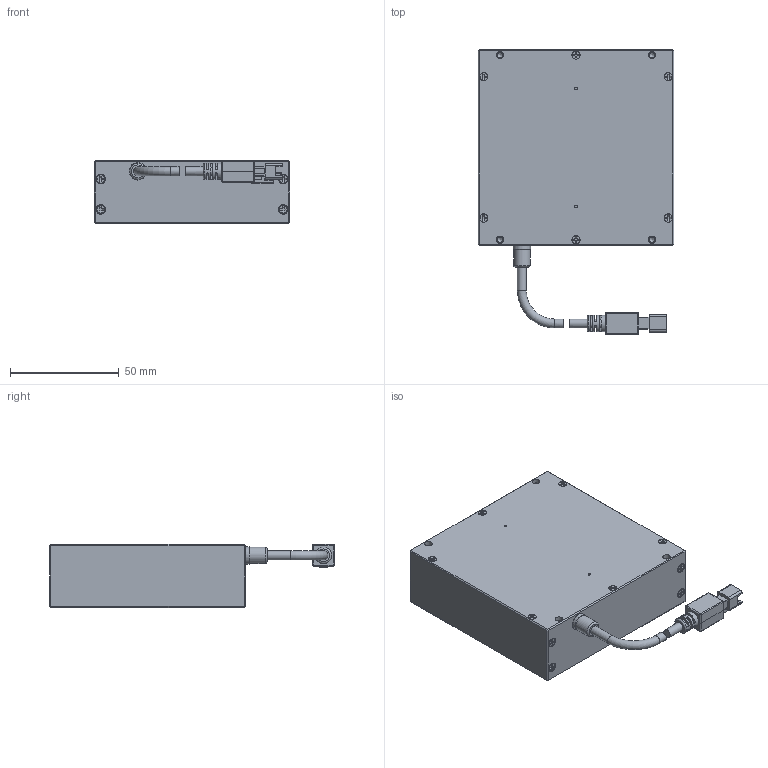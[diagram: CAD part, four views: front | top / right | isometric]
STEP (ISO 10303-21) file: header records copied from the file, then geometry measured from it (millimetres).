
FILE_DESCRIPTION (( 'STEP AP203' ), '1' );
FILE_NAME ('OPT-IFLA9090-IR-V1.0尨砩芞.STEP', '2024-12-17T07:29:45', ( '' ), ( '' ), 'SwSTEP 2.0', 'SolidWorks 2016', '' );
FILE_SCHEMA (( 'CONFIG_CONTROL_DESIGN' ));
Length unit declared in the file: millimetre
Products named in the file (1): OPT-IFLA9090-IR-V1.0尨砩芞
Bounding box: 90 x 131 x 29 mm (x, y, z)
Volume: 230440.8 mm3; surface area: 35818.6 mm2
Topology: 13 solids, 21 shells, 748 faces, 1752 edges, 1083 vertices
Faces by surface type: plane 440, cylinder 217, cone 62, bspline 20, torus 9
Full cylindrical faces by diameter (mm): 1.1 x2, 1.6 x14, 2 x14, 2.4 x14, 2.5 x4, 3.4 x4, 3.5 x1, 3.8 x14, 4.1 x4, 5.8 x1, 7.5 x2, 8 x1
Entity records: 20596 total; most frequent: CARTESIAN_POINT 4256, DIRECTION 3402, ORIENTED_EDGE 3116, EDGE_CURVE 1558, AXIS2_PLACEMENT_3D 1179, LINE 1044, VECTOR 1044, VERTEX_POINT 1035
